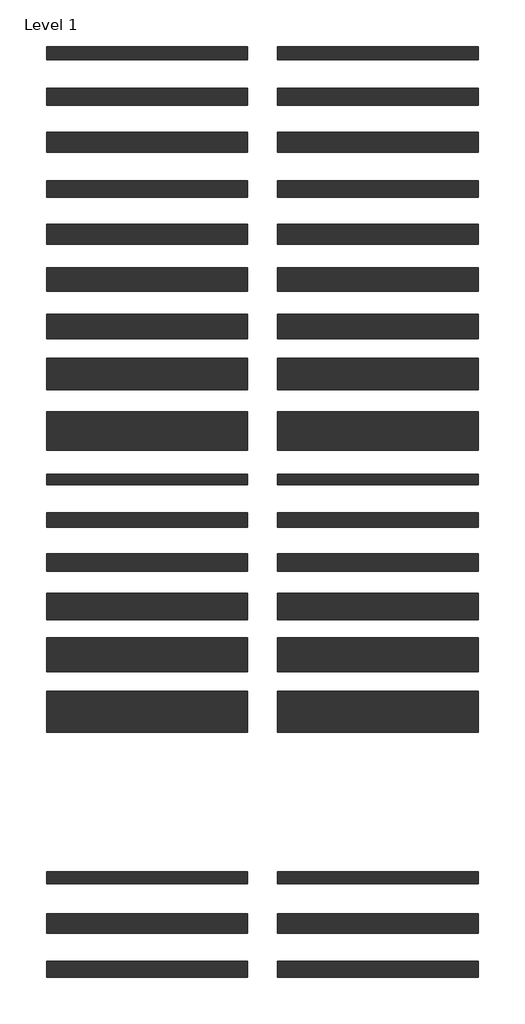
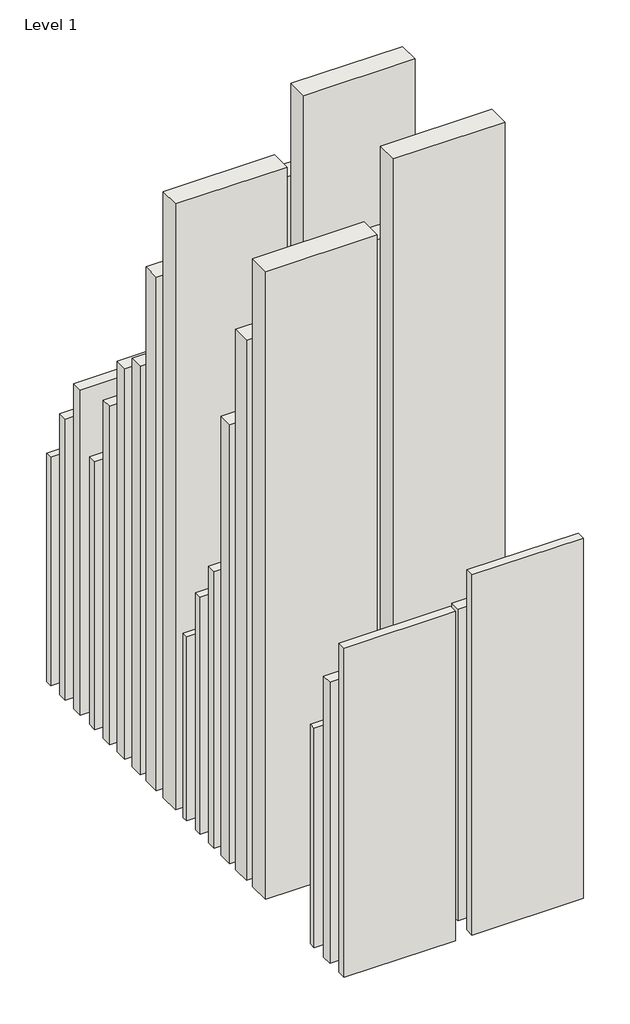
# One storey: 36 walls.
"""IFC4 building model written with IfcOpenShell, lengths in millimetres."""

from ifc_helpers import new_model, si_unit, origin, origin_with_axes, place, context, project, spatial, polyline, outline, extrude, element, save

model = new_model("IFC4")

# Units and contexts
model_context = context("Model", 3, world=origin())
ifc_project = project(units=[si_unit("LENGTHUNIT", "METRE", prefix="MILLI")], contexts=[model_context])

# Site, building, storey
site = spatial("IfcSite", under=ifc_project)
building = spatial("IfcBuilding", under=site)
storey = spatial("IfcBuildingStorey", under=building, Name="Level 1", Elevation=0.0)

# Walls
placement = place(None, origin())
element("IfcWall", 1, ObjectType="Tabique Simple – Placo® 78(48) BA15 + 48LM + BA15 c/600 - 43,2 dBA", at=placement, inside=storey, context=model_context, shape_type="SweptSolid", body=[
    extrude(outline(polyline([(737.0051279, -1989.0445576), (-462.9948721, -1989.0445576), (-462.9948721, -1911.0445576), (737.0051279, -1911.0445576), (737.0051279, -1989.0445576)])), origin_with_axes(), (0.0, 0.0, 1.0), 2600.0),
])
element("IfcWall", 2, ObjectType="Tabique Simple – Placo® 78(48) BA15 + 48LM + BA15 c/400 - 43,2 dBA", at=placement, inside=storey, context=model_context, shape_type="SweptSolid", body=[
    extrude(outline(polyline([(2117.0051279, -1989.0445576), (917.0051279, -1989.0445576), (917.0051279, -1911.0445576), (2117.0051279, -1911.0445576), (2117.0051279, -1989.0445576)])), origin_with_axes(), (0.0, 0.0, 1.0), 2800.0),
])
element("IfcWall", 3, ObjectType="Tabique Simple – Placo® 100(70) BA15 + 70LM + BA15 c/600 - 45,7 dBA", at=placement, inside=storey, context=model_context, shape_type="SweptSolid", body=[
    extrude(outline(polyline([(737.0051279, -2260.0445576), (-462.9948721, -2260.0445576), (-462.9948721, -2160.0445576), (737.0051279, -2160.0445576), (737.0051279, -2260.0445576)])), origin_with_axes(), (0.0, 0.0, 1.0), 3200.0),
])
element("IfcWall", 4, ObjectType="Tabique Simple – Placo® 100(70) BA15 + 70LM + BA15 c/400 - 45,7 dBA", at=placement, inside=storey, context=model_context, shape_type="SweptSolid", body=[
    extrude(outline(polyline([(2117.0051279, -2260.0445576), (917.0051279, -2260.0445576), (917.0051279, -2160.0445576), (2117.0051279, -2160.0445576), (2117.0051279, -2260.0445576)])), origin_with_axes(), (0.0, 0.0, 1.0), 3550.0),
])
element("IfcWall", 5, ObjectType="Tabique Simple – Placo® 120(90) BA15 + 90LM + BA15 c/600 - 47 dBA", at=placement, inside=storey, context=model_context, shape_type="SweptSolid", body=[
    extrude(outline(polyline([(737.0051279, -2541.0445576), (-462.9948721, -2541.0445576), (-462.9948721, -2421.0445576), (737.0051279, -2421.0445576), (737.0051279, -2541.0445576)])), origin_with_axes(), (0.0, 0.0, 1.0), 3700.0),
])
element("IfcWall", 6, ObjectType="Tabique Simple – Placo® 120(90) BA15 + 90LM + BA15 c/400 - 47 dBA", at=placement, inside=storey, context=model_context, shape_type="SweptSolid", body=[
    extrude(outline(polyline([(2117.0051279, -2541.0445576), (917.0051279, -2541.0445576), (917.0051279, -2421.0445576), (2117.0051279, -2421.0445576), (2117.0051279, -2541.0445576)])), origin_with_axes(), (0.0, 0.0, 1.0), 4100.0),
])
element("IfcWall", 7, ObjectType="Tabique Simple – Placo® 98(48) 2xBA13 + 48LM + 2xBA13 c/600 - 51,9 dBA", at=placement, inside=storey, context=model_context, shape_type="SweptSolid", body=[
    extrude(outline(polyline([(737.0051279, -2811.0445576), (-462.9948721, -2811.0445576), (-462.9948721, -2713.0445576), (737.0051279, -2713.0445576), (737.0051279, -2811.0445576)])), origin_with_axes(), (0.0, 0.0, 1.0), 3050.0),
])
element("IfcWall", 8, ObjectType="Tabique Simple – Placo® 98(48) 2xBA13 + 48LM + 2xBA13 c/400 - 51,9 dBA", at=placement, inside=storey, context=model_context, shape_type="SweptSolid", body=[
    extrude(outline(polyline([(2117.0051279, -2811.0445576), (917.0051279, -2811.0445576), (917.0051279, -2713.0445576), (2117.0051279, -2713.0445576), (2117.0051279, -2811.0445576)])), origin_with_axes(), (0.0, 0.0, 1.0), 3350.0),
])
element("IfcWall", 9, ObjectType="Tabique Simple – Placo® 120(70) 2xBA13 + 70LM + 2xBA13 c/600 - 53 dBA", at=placement, inside=storey, context=model_context, shape_type="SweptSolid", body=[
    extrude(outline(polyline([(737.0051279, -3092.0445576), (-462.9948721, -3092.0445576), (-462.9948721, -2972.0445576), (737.0051279, -2972.0445576), (737.0051279, -3092.0445576)])), origin_with_axes(), (0.0, 0.0, 1.0), 3850.0),
])
element("IfcWall", 10, ObjectType="Tabique Simple – Placo® 120(70) 2xBA13 + 70LM + 2xBA13 c/400 - 53 dBA", at=placement, inside=storey, context=model_context, shape_type="SweptSolid", body=[
    extrude(outline(polyline([(2117.0051279, -3092.0445576), (917.0051279, -3092.0445576), (917.0051279, -2972.0445576), (2117.0051279, -2972.0445576), (2117.0051279, -3092.0445576)])), origin_with_axes(), (0.0, 0.0, 1.0), 4250.0),
])
element("IfcWall", 11, ObjectType="Tabique Simple – Placo® 140(90) 2xBA13 + 90LM + 2xBA13 c/600 - 54 dBA", at=placement, inside=storey, context=model_context, shape_type="SweptSolid", body=[
    extrude(outline(polyline([(737.0051279, -3372.0445576), (-462.9948721, -3372.0445576), (-462.9948721, -3232.0445576), (737.0051279, -3232.0445576), (737.0051279, -3372.0445576)])), origin_with_axes(), (0.0, 0.0, 1.0), 4450.0),
])
element("IfcWall", 12, ObjectType="Tabique Simple – Placo® 140(90) 2xBA13 + 90LM + 2xBA13 c/400 - 54 dBA", at=placement, inside=storey, context=model_context, shape_type="SweptSolid", body=[
    extrude(outline(polyline([(2117.0051279, -3372.0445576), (917.0051279, -3372.0445576), (917.0051279, -3232.0445576), (2117.0051279, -3232.0445576), (2117.0051279, -3372.0445576)])), origin_with_axes(), (0.0, 0.0, 1.0), 4950.0),
])
element("IfcWall", 13, ObjectType="Tabique Doble – Placo® 146(48) 2xBA13 + 2x48LM + 2xBA13 c/600 - 55,9 dBA", at=placement, inside=storey, context=model_context, shape_type="SweptSolid", body=[
    extrude(outline(polyline([(737.0051279, -3655.0445576), (-462.9948721, -3655.0445576), (-462.9948721, -3509.0445576), (737.0051279, -3509.0445576), (737.0051279, -3655.0445576)])), origin_with_axes(), (0.0, 0.0, 1.0), 4650.0),
])
element("IfcWall", 14, ObjectType="Tabique Doble – Placo® 146(48) 2xBA13 + 2x48LM + 2xBA13 c/400 - 55,9 dBA", at=placement, inside=storey, context=model_context, shape_type="SweptSolid", body=[
    extrude(outline(polyline([(2117.0051279, -3655.0445576), (917.0051279, -3655.0445576), (917.0051279, -3509.0445576), (2117.0051279, -3509.0445576), (2117.0051279, -3655.0445576)])), origin_with_axes(), (0.0, 0.0, 1.0), 5150.0),
])
element("IfcWall", 15, ObjectType="Tabique Doble – Placo® 190(70) 2xBA13 + 2x70LM + 2xBA13 c/600 - ≥ 55,9 dBA", at=placement, inside=storey, context=model_context, shape_type="SweptSolid", body=[
    extrude(outline(polyline([(737.0051279, -3960.0445576), (-462.9948721, -3960.0445576), (-462.9948721, -3770.0445576), (737.0051279, -3770.0445576), (737.0051279, -3960.0445576)])), origin_with_axes(), (0.0, 0.0, 1.0), 5850.0),
])
element("IfcWall", 16, ObjectType="Tabique Doble – Placo® 190(70) 2xBA13 + 2x70LM + 2xBA13 c/400 - ≥ 55,9 dBA", at=placement, inside=storey, context=model_context, shape_type="SweptSolid", body=[
    extrude(outline(polyline([(2117.0051279, -3960.0445576), (917.0051279, -3960.0445576), (917.0051279, -3770.0445576), (2117.0051279, -3770.0445576), (2117.0051279, -3960.0445576)])), origin_with_axes(), (0.0, 0.0, 1.0), 6500.0),
])
element("IfcWall", 17, ObjectType="Tabique Doble – Placo® 230(90) 2xBA13 + 2x90LM + 2xBA13 c/600 - ≥ 55,9 dBA", at=placement, inside=storey, context=model_context, shape_type="SweptSolid", body=[
    extrude(outline(polyline([(737.0051279, -4319.6681736), (-462.9948721, -4319.6681736), (-462.9948721, -4089.6681736), (737.0051279, -4089.6681736), (737.0051279, -4319.6681736)])), origin_with_axes(), (0.0, 0.0, 1.0), 6900.0),
])
element("IfcWall", 18, ObjectType="Tabique Doble – Placo® 230(90) 2xBA13 + 2x90LM + 2xBA13 c/400 - ≥ 55,9 dBA", at=placement, inside=storey, context=model_context, shape_type="SweptSolid", body=[
    extrude(outline(polyline([(2117.0051279, -4319.6681736), (917.0051279, -4319.6681736), (917.0051279, -4089.6681736), (2117.0051279, -4089.6681736), (2117.0051279, -4319.6681736)])), origin_with_axes(), (0.0, 0.0, 1.0), 7650.0),
])
element("IfcWall", 19, ObjectType="Trasdosado Placo® 63(48) BA15 + 48LM c/600", at=placement, inside=storey, context=model_context, shape_type="SweptSolid", body=[
    extrude(outline(polyline([(737.0051279, -4526.5445576), (-462.9948721, -4526.5445576), (-462.9948721, -4463.5445576), (737.0051279, -4463.5445576), (737.0051279, -4526.5445576)])), origin_with_axes(), (0.0, 0.0, 1.0), 2100.0),
])
element("IfcWall", 20, ObjectType="Trasdosado Placo® 63(48) BA15 + 48LM c/400", at=placement, inside=storey, context=model_context, shape_type="SweptSolid", body=[
    extrude(outline(polyline([(2117.0051279, -4526.5445576), (917.0051279, -4526.5445576), (917.0051279, -4463.5445576), (2117.0051279, -4463.5445576), (2117.0051279, -4526.5445576)])), origin_with_axes(), (0.0, 0.0, 1.0), 2300.0),
])
element("IfcWall", 21, ObjectType="Trasdosado Placo® 85(70) BA15 + 70LM c/600", at=placement, inside=storey, context=model_context, shape_type="SweptSolid", body=[
    extrude(outline(polyline([(737.0051279, -4779.0445576), (-462.9948721, -4779.0445576), (-462.9948721, -4694.0445576), (737.0051279, -4694.0445576), (737.0051279, -4779.0445576)])), origin_with_axes(), (0.0, 0.0, 1.0), 2700.0),
])
element("IfcWall", 22, ObjectType="Trasdosado Placo® 85(70) BA15 + 70LM c/400", at=placement, inside=storey, context=model_context, shape_type="SweptSolid", body=[
    extrude(outline(polyline([(2117.0051279, -4779.0445576), (917.0051279, -4779.0445576), (917.0051279, -4694.0445576), (2117.0051279, -4694.0445576), (2117.0051279, -4779.0445576)])), origin_with_axes(), (0.0, 0.0, 1.0), 2950.0),
])
element("IfcWall", 23, ObjectType="Trasdosado Placo® 105(90) BA15 + 90LM c/600", at=placement, inside=storey, context=model_context, shape_type="SweptSolid", body=[
    extrude(outline(polyline([(737.0051279, -5041.5445576), (-462.9948721, -5041.5445576), (-462.9948721, -4936.5445576), (737.0051279, -4936.5445576), (737.0051279, -5041.5445576)])), origin_with_axes(), (0.0, 0.0, 1.0), 3150.0),
])
element("IfcWall", 24, ObjectType="Trasdosado Placo® 105(90) BA15 + 90LM c/400", at=placement, inside=storey, context=model_context, shape_type="SweptSolid", body=[
    extrude(outline(polyline([(2117.0051279, -5041.5445576), (917.0051279, -5041.5445576), (917.0051279, -4936.5445576), (2117.0051279, -4936.5445576), (2117.0051279, -5041.5445576)])), origin_with_axes(), (0.0, 0.0, 1.0), 3450.0),
])
element("IfcWall", 25, ObjectType="Tabique Doble – Placo® 159(48) 2xBA13 + 48LM + BA13 + 48LM + 2xBA13 c/600 - 59,1 dBA", at=placement, inside=storey, context=model_context, shape_type="SweptSolid", body=[
    extrude(outline(polyline([(737.0051279, -5330.7945576), (-462.9948721, -5330.7945576), (-462.9948721, -5172.2945576), (737.0051279, -5172.2945576), (737.0051279, -5330.7945576)])), origin_with_axes(), (0.0, 0.0, 1.0), 5000.0),
])
element("IfcWall", 26, ObjectType="Tabique Doble – Placo® 159(48) 2xBA13 + 48LM + BA13 + 48LM + 2xBA13 c/400 - 59,1 dBA", at=placement, inside=storey, context=model_context, shape_type="SweptSolid", body=[
    extrude(outline(polyline([(2117.0051279, -5330.7945576), (917.0051279, -5330.7945576), (917.0051279, -5172.2945576), (2117.0051279, -5172.2945576), (2117.0051279, -5330.7945576)])), origin_with_axes(), (0.0, 0.0, 1.0), 5550.0),
])
element("IfcWall", 27, ObjectType="Tabique Doble – Placo® 203(70) 2xBA13 + 70LM + BA13 + 70LM + 2xBA13 c/600 - ≥ 59,1 dBA", at=placement, inside=storey, context=model_context, shape_type="SweptSolid", body=[
    extrude(outline(polyline([(737.0051279, -5642.0445576), (-462.9948721, -5642.0445576), (-462.9948721, -5439.5445576), (737.0051279, -5439.5445576), (737.0051279, -5642.0445576)])), origin_with_axes(), (0.0, 0.0, 1.0), 6150.0),
])
element("IfcWall", 28, ObjectType="Tabique Doble – Placo® 203(70) 2xBA13 + 70LM + BA13 + 70LM + 2xBA13 c/400 - ≥ 59,1 dBA", at=placement, inside=storey, context=model_context, shape_type="SweptSolid", body=[
    extrude(outline(polyline([(2117.0051279, -5642.0445576), (917.0051279, -5642.0445576), (917.0051279, -5439.5445576), (2117.0051279, -5439.5445576), (2117.0051279, -5642.0445576)])), origin_with_axes(), (0.0, 0.0, 1.0), 6800.0),
])
element("IfcWall", 29, ObjectType="Tabique Doble – Placo® 243(90) 2xBA13 + 90LM + BA13 + 90LM + 2xBA13 c/600 - ≥ 59,1 dBA", at=placement, inside=storey, context=model_context, shape_type="SweptSolid", body=[
    extrude(outline(polyline([(737.0051279, -6002.0445576), (-462.9948721, -6002.0445576), (-462.9948721, -5759.5445576), (737.0051279, -5759.5445576), (737.0051279, -6002.0445576)])), origin_with_axes(), (0.0, 0.0, 1.0), 7150.0),
])
element("IfcWall", 30, ObjectType="Tabique Doble – Placo® 243(90) 2xBA13 + 90LM + BA13 + 90LM + 2xBA13 c/400 - ≥ 59,1 dBA", at=placement, inside=storey, context=model_context, shape_type="SweptSolid", body=[
    extrude(outline(polyline([(2117.0051279, -6002.0445576), (917.0051279, -6002.0445576), (917.0051279, -5759.5445576), (2117.0051279, -5759.5445576), (2117.0051279, -6002.0445576)])), origin_with_axes(), (0.0, 0.0, 1.0), 7950.0),
])
element("IfcWall", 31, ObjectType="Trasdosado Placo® 73(48) 2xBA13 + 48LM c/600", at=placement, inside=storey, context=model_context, shape_type="SweptSolid", body=[
    extrude(outline(polyline([(737.0051279, -6908.5445576), (-462.9948721, -6908.5445576), (-462.9948721, -6835.5445576), (737.0051279, -6835.5445576), (737.0051279, -6908.5445576)])), origin_with_axes(), (0.0, 0.0, 1.0), 2500.0),
])
element("IfcWall", 32, ObjectType="Trasdosado Placo® 73(48) 2xBA13 + 48LM c/400", at=placement, inside=storey, context=model_context, shape_type="SweptSolid", body=[
    extrude(outline(polyline([(2117.0051279, -6908.5445576), (917.0051279, -6908.5445576), (917.0051279, -6835.5445576), (2117.0051279, -6835.5445576), (2117.0051279, -6908.5445576)])), origin_with_axes(), (0.0, 0.0, 1.0), 2700.0),
])
element("IfcWall", 33, ObjectType="Trasdosado Placo® 95(70) 2xBA13 + 70LM c/600", at=placement, inside=storey, context=model_context, shape_type="SweptSolid", body=[
    extrude(outline(polyline([(737.0051279, -7466.0445576), (-462.9948721, -7466.0445576), (-462.9948721, -7371.0445576), (737.0051279, -7371.0445576), (737.0051279, -7466.0445576)])), origin_with_axes(), (0.0, 0.0, 1.0), 3750.0),
])
element("IfcWall", 34, ObjectType="Trasdosado Placo® 95(70) 2xBA13 + 70LM c/400", at=placement, inside=storey, context=model_context, shape_type="SweptSolid", body=[
    extrude(outline(polyline([(2117.0051279, -7466.0445576), (917.0051279, -7466.0445576), (917.0051279, -7371.0445576), (2117.0051279, -7371.0445576), (2117.0051279, -7466.0445576)])), origin_with_axes(), (0.0, 0.0, 1.0), 4100.0),
])
element("IfcWall", 35, ObjectType="Trasdosado Placo® 115(90) 2xBA13 + 90LM c/600", at=placement, inside=storey, context=model_context, shape_type="SweptSolid", body=[
    extrude(outline(polyline([(737.0051279, -7200.997803), (-462.9948721, -7200.997803), (-462.9948721, -7085.997803), (737.0051279, -7085.997803), (737.0051279, -7200.997803)])), origin_with_axes(), (0.0, 0.0, 1.0), 3200.0),
])
element("IfcWall", 36, ObjectType="Trasdosado Placo® 115(90) 2xBA13 + 90LM c/400", at=placement, inside=storey, context=model_context, shape_type="SweptSolid", body=[
    extrude(outline(polyline([(2117.0051279, -7200.997803), (917.0051279, -7200.997803), (917.0051279, -7085.997803), (2117.0051279, -7085.997803), (2117.0051279, -7200.997803)])), origin_with_axes(), (0.0, 0.0, 1.0), 3550.0),
])

save(model, "model.ifc")
